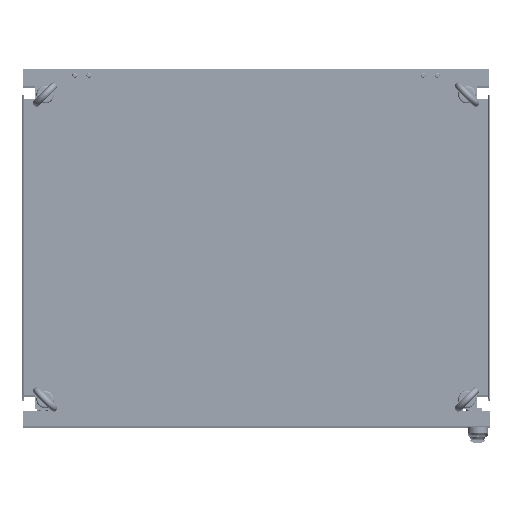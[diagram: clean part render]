
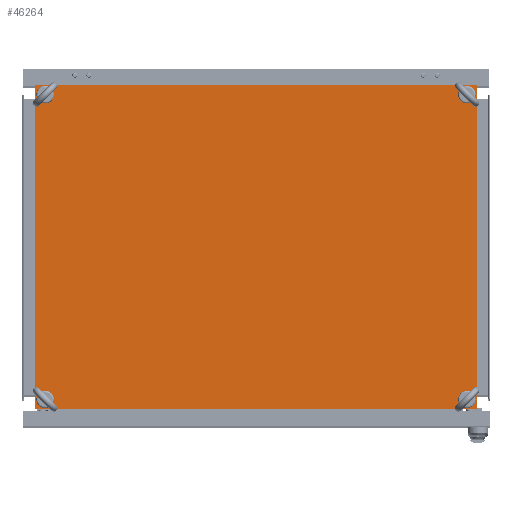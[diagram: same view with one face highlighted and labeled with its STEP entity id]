
A CAD part, top view. The second image highlights one B-rep face of the part: STEP entity #46264.
In plain terms, the highlighted planar face has unit normal (0, 0, 1).
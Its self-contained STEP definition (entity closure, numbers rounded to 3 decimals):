
#67=VERTEX_LOOP('',#32704);
#68=VERTEX_LOOP('',#32705);
#69=VERTEX_LOOP('',#32706);
#70=VERTEX_LOOP('',#32707);
#5476=LINE('',#74137,#10276);
#5477=LINE('',#74140,#10277);
#5478=LINE('',#74142,#10278);
#5479=LINE('',#74144,#10279);
#10276=VECTOR('',#61003,1000.);
#10277=VECTOR('',#61004,1000.);
#10278=VECTOR('',#61005,1000.);
#10279=VECTOR('',#61006,1000.);
#20277=ORIENTED_EDGE('',*,*,#27952,.F.);
#20278=ORIENTED_EDGE('',*,*,#27953,.F.);
#20279=ORIENTED_EDGE('',*,*,#27954,.F.);
#20280=ORIENTED_EDGE('',*,*,#27955,.F.);
#20281=ORIENTED_EDGE('',*,*,#27956,.F.);
#20282=ORIENTED_EDGE('',*,*,#27957,.F.);
#20283=ORIENTED_EDGE('',*,*,#27958,.F.);
#20284=ORIENTED_EDGE('',*,*,#27959,.F.);
#27952=EDGE_CURVE('',#32700,#32700,#34491,.T.);
#27953=EDGE_CURVE('',#32701,#32701,#34492,.T.);
#27954=EDGE_CURVE('',#32702,#32702,#34493,.T.);
#27955=EDGE_CURVE('',#32703,#32703,#34494,.T.);
#27956=EDGE_CURVE('',#32708,#32709,#5476,.T.);
#27957=EDGE_CURVE('',#32710,#32708,#5477,.T.);
#27958=EDGE_CURVE('',#32711,#32710,#5478,.T.);
#27959=EDGE_CURVE('',#32709,#32711,#5479,.T.);
#32700=VERTEX_POINT('',#74126);
#32701=VERTEX_POINT('',#74128);
#32702=VERTEX_POINT('',#74130);
#32703=VERTEX_POINT('',#74132);
#32704=VERTEX_POINT('',#74133);
#32705=VERTEX_POINT('',#74134);
#32706=VERTEX_POINT('',#74135);
#32707=VERTEX_POINT('',#74136);
#32708=VERTEX_POINT('',#74138);
#32709=VERTEX_POINT('',#74139);
#32710=VERTEX_POINT('',#74141);
#32711=VERTEX_POINT('',#74143);
#34491=CIRCLE('',#51118,6.5);
#34492=CIRCLE('',#51119,6.5);
#34493=CIRCLE('',#51120,6.5);
#34494=CIRCLE('',#51121,6.5);
#37840=EDGE_LOOP('',(#20277));
#37841=EDGE_LOOP('',(#20278));
#37842=EDGE_LOOP('',(#20279));
#37843=EDGE_LOOP('',(#20280));
#37844=EDGE_LOOP('',(#20281,#20282,#20283,#20284));
#41808=FACE_BOUND('',#37840,.T.);
#41809=FACE_BOUND('',#37841,.T.);
#41810=FACE_BOUND('',#37842,.T.);
#41811=FACE_BOUND('',#37843,.T.);
#41812=FACE_BOUND('',#67,.T.);
#41813=FACE_BOUND('',#68,.T.);
#41814=FACE_BOUND('',#69,.T.);
#41815=FACE_BOUND('',#70,.T.);
#41816=FACE_BOUND('',#37844,.T.);
#44234=PLANE('',#51117);
#46264=ADVANCED_FACE('',(#41808,#41809,#41810,#41811,#41812,#41813,#41814,
#41815,#41816),#44234,.F.);
#51117=AXIS2_PLACEMENT_3D('',#74124,#60993,#60994);
#51118=AXIS2_PLACEMENT_3D('',#74125,#60995,#60996);
#51119=AXIS2_PLACEMENT_3D('',#74127,#60997,#60998);
#51120=AXIS2_PLACEMENT_3D('',#74129,#60999,#61000);
#51121=AXIS2_PLACEMENT_3D('',#74131,#61001,#61002);
#60993=DIRECTION('',(0.,0.,-1.));
#60994=DIRECTION('',(-1.,0.,0.));
#60995=DIRECTION('',(0.,0.,1.));
#60996=DIRECTION('',(1.,0.,0.));
#60997=DIRECTION('',(0.,0.,1.));
#60998=DIRECTION('',(1.,0.,0.));
#60999=DIRECTION('',(0.,0.,1.));
#61000=DIRECTION('',(1.,0.,0.));
#61001=DIRECTION('',(0.,0.,1.));
#61002=DIRECTION('',(1.,0.,0.));
#61003=DIRECTION('',(0.,1.,0.));
#61004=DIRECTION('',(-1.,0.,0.));
#61005=DIRECTION('',(0.,-1.,0.));
#61006=DIRECTION('',(1.,0.,0.));
#74124=CARTESIAN_POINT('',(0.,0.,0.));
#74125=CARTESIAN_POINT('',(360.5,260.5,0.));
#74126=CARTESIAN_POINT('',(367.,260.5,0.));
#74127=CARTESIAN_POINT('',(-360.5,260.5,0.));
#74128=CARTESIAN_POINT('',(-354.,260.5,0.));
#74129=CARTESIAN_POINT('',(360.5,-260.5,0.));
#74130=CARTESIAN_POINT('',(367.,-260.5,0.));
#74131=CARTESIAN_POINT('',(-360.5,-260.5,0.));
#74132=CARTESIAN_POINT('',(-354.,-260.5,0.));
#74133=CARTESIAN_POINT('',(-374.201,274.201,0.));
#74134=CARTESIAN_POINT('',(-374.2,-274.201,0.));
#74135=CARTESIAN_POINT('',(374.2,274.201,0.));
#74136=CARTESIAN_POINT('',(374.201,-274.201,0.));
#74137=CARTESIAN_POINT('',(-377.,-277.,0.));
#74138=CARTESIAN_POINT('',(-377.,-277.,0.));
#74139=CARTESIAN_POINT('',(-377.,277.,0.));
#74140=CARTESIAN_POINT('',(377.,-277.,0.));
#74141=CARTESIAN_POINT('',(377.,-277.,0.));
#74142=CARTESIAN_POINT('',(377.,277.,0.));
#74143=CARTESIAN_POINT('',(377.,277.,0.));
#74144=CARTESIAN_POINT('',(-377.,277.,0.));
